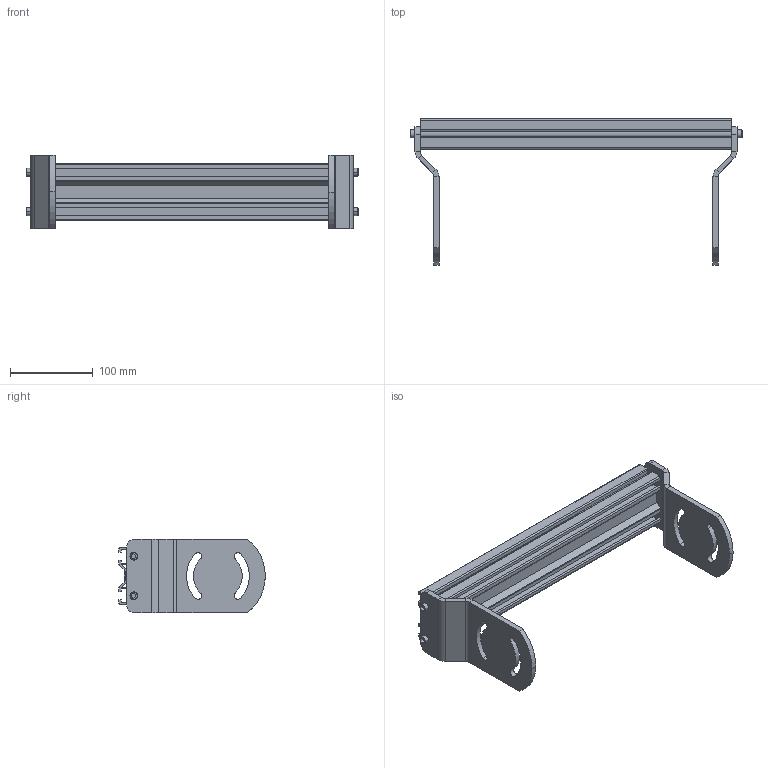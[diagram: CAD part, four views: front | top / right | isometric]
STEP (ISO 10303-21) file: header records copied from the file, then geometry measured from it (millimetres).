
FILE_DESCRIPTION((''),'2;1');
FILE_NAME('39MCM12-2_ASM','2023-03-01T',('jenni.wallner'),(''),'PRO/ENGINEER BY PARAMETRIC TECHNOLOGY CORPORATION, 2012420','PRO/ENGINEER BY PARAMETRIC TECHNOLOGY CORPORATION, 2012420','');
FILE_SCHEMA(('CONFIG_CONTROL_DESIGN'));
Length unit declared in the file: inch
Products named in the file (5): 710210_01479; 300825M; 708180P; 39MCM12-2_ASM_ASM; 39MCM12-2_ASM
Assembly tree (8 placements, depth 3):
  39MCM12-2_ASM
    39MCM12-2_ASM_ASM
      710210_01479
      300825M  x2
      708180P  x4
Bounding box: 400.37 x 176.65 x 88.93 mm (x, y, z)
Volume: 445398 mm3; surface area: 291281.5 mm2
Topology: 7 solids, 7 shells, 256 faces, 702 edges, 468 vertices
Faces by surface type: plane 144, cylinder 92, cone 20
Entity records: 5060 total; most frequent: CARTESIAN_POINT 922, DIRECTION 847, ORIENTED_EDGE 836, EDGE_CURVE 418, VECTOR 301, LINE 301, VERTEX_POINT 276, AXIS2_PLACEMENT_3D 273
